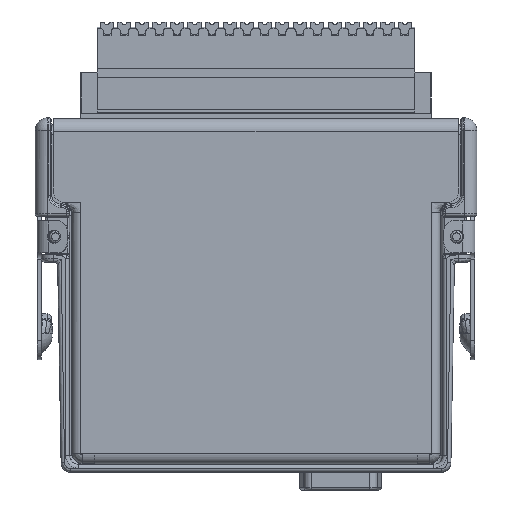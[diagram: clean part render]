
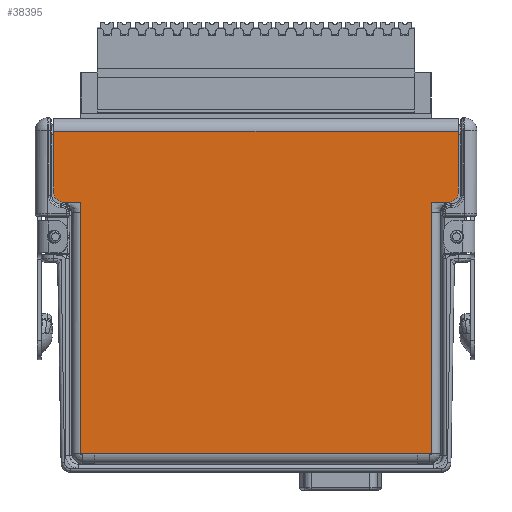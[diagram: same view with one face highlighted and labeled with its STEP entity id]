
A CAD part, left-side view. The second image highlights one B-rep face of the part: STEP entity #38395.
In plain terms, the highlighted planar face has unit normal (-1, 0, 0) as drawn and (0, 0, 1) by its records, which use the part's own axes.
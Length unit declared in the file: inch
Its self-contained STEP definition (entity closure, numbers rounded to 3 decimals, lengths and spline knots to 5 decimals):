
#36951=CARTESIAN_POINT('',(1.5095,-0.779,0.));
#36952=DIRECTION('',(0.,0.,1.));
#36953=DIRECTION('',(1.,0.,0.));
#36954=AXIS2_PLACEMENT_3D('',#36951,#36952,#36953);
#36956=DIRECTION('',(-1.,0.,0.));
#36957=VECTOR('',#36956,0.133);
#36958=CARTESIAN_POINT('',(1.5095,-0.699,0.));
#36959=LINE('',#36958,#36957);
#36968=DIRECTION('',(0.,1.,0.));
#36969=VECTOR('',#36968,0.476);
#36970=CARTESIAN_POINT('',(1.5895,-1.255,0.));
#36971=LINE('',#36970,#36969);
#36972=DIRECTION('',(0.,-1.,0.));
#36973=VECTOR('',#36972,0.476);
#36974=CARTESIAN_POINT('',(-1.5895,-0.779,0.));
#36975=LINE('',#36974,#36973);
#36976=DIRECTION('',(0.,-1.,0.));
#36977=VECTOR('',#36976,0.079);
#36978=CARTESIAN_POINT('',(-1.3765,-0.62,0.));
#36979=LINE('',#36978,#36977);
#36980=DIRECTION('',(-1.,0.,0.));
#36981=VECTOR('',#36980,0.105);
#36982=CARTESIAN_POINT('',(-1.2715,1.275,0.));
#36983=LINE('',#36982,#36981);
#36984=DIRECTION('',(-1.,0.,0.));
#36985=VECTOR('',#36984,0.105);
#36986=CARTESIAN_POINT('',(1.3765,1.275,0.));
#36987=LINE('',#36986,#36985);
#36988=DIRECTION('',(0.,-1.,0.));
#36989=VECTOR('',#36988,0.079);
#36990=CARTESIAN_POINT('',(1.3765,-0.62,0.));
#36991=LINE('',#36990,#36989);
#37005=DIRECTION('',(-1.,0.,0.));
#37006=VECTOR('',#37005,3.179);
#37007=CARTESIAN_POINT('',(1.5895,-1.255,0.));
#37008=LINE('',#37007,#37006);
#37217=CARTESIAN_POINT('',(-1.5095,-0.779,0.));
#37218=DIRECTION('',(0.,0.,1.));
#37219=DIRECTION('',(0.,1.,0.));
#37220=AXIS2_PLACEMENT_3D('',#37217,#37218,#37219);
#37230=DIRECTION('',(-1.,0.,0.));
#37231=VECTOR('',#37230,0.133);
#37232=CARTESIAN_POINT('',(-1.3765,-0.699,0.));
#37233=LINE('',#37232,#37231);
#37242=DIRECTION('',(0.,-1.,0.));
#37243=VECTOR('',#37242,1.895);
#37244=CARTESIAN_POINT('',(-1.3765,1.275,0.));
#37245=LINE('',#37244,#37243);
#37301=DIRECTION('',(-1.,0.,0.));
#37302=VECTOR('',#37301,2.543);
#37303=CARTESIAN_POINT('',(1.2715,1.275,0.));
#37304=LINE('',#37303,#37302);
#37577=DIRECTION('',(0.,-1.,0.));
#37578=VECTOR('',#37577,1.895);
#37579=CARTESIAN_POINT('',(1.3765,1.275,0.));
#37580=LINE('',#37579,#37578);
#37815=CARTESIAN_POINT('',(-1.5895,-1.255,0.));
#37816=VERTEX_POINT('',#37815);
#37817=CARTESIAN_POINT('',(1.5895,-1.255,0.));
#37818=VERTEX_POINT('',#37817);
#37847=CARTESIAN_POINT('',(1.2715,1.275,0.));
#37848=CARTESIAN_POINT('',(-1.2715,1.275,0.));
#37849=VERTEX_POINT('',#37847);
#37850=VERTEX_POINT('',#37848);
#37859=CARTESIAN_POINT('',(-1.3765,1.275,0.));
#37860=VERTEX_POINT('',#37859);
#37871=CARTESIAN_POINT('',(1.3765,1.275,0.));
#37872=VERTEX_POINT('',#37871);
#37928=CARTESIAN_POINT('',(1.5095,-0.699,0.));
#37930=VERTEX_POINT('',#37928);
#37933=CARTESIAN_POINT('',(1.5895,-0.779,0.));
#37934=VERTEX_POINT('',#37933);
#37936=CARTESIAN_POINT('',(-1.5895,-0.779,0.));
#37938=VERTEX_POINT('',#37936);
#37941=CARTESIAN_POINT('',(-1.5095,-0.699,0.));
#37942=VERTEX_POINT('',#37941);
#37963=CARTESIAN_POINT('',(-1.3765,-0.62,0.));
#37964=VERTEX_POINT('',#37963);
#37967=CARTESIAN_POINT('',(-1.3765,-0.699,0.));
#37968=VERTEX_POINT('',#37967);
#37975=CARTESIAN_POINT('',(1.3765,-0.62,0.));
#37976=CARTESIAN_POINT('',(1.3765,-0.699,0.));
#37977=VERTEX_POINT('',#37975);
#37978=VERTEX_POINT('',#37976);
#38362=CARTESIAN_POINT('',(0.,0.,0.));
#38363=DIRECTION('',(0.,0.,1.));
#38364=DIRECTION('',(1.,0.,0.));
#38365=AXIS2_PLACEMENT_3D('',#38362,#38363,#38364);
#38366=PLANE('',#38365);
#38367=ORIENTED_EDGE('',*,*,#38343,.F.);
#38369=ORIENTED_EDGE('',*,*,#38368,.F.);
#38371=ORIENTED_EDGE('',*,*,#38370,.T.);
#38373=ORIENTED_EDGE('',*,*,#38372,.F.);
#38375=ORIENTED_EDGE('',*,*,#38374,.F.);
#38377=ORIENTED_EDGE('',*,*,#38376,.F.);
#38379=ORIENTED_EDGE('',*,*,#38378,.F.);
#38381=ORIENTED_EDGE('',*,*,#38380,.F.);
#38383=ORIENTED_EDGE('',*,*,#38382,.F.);
#38385=ORIENTED_EDGE('',*,*,#38384,.F.);
#38387=ORIENTED_EDGE('',*,*,#38386,.F.);
#38389=ORIENTED_EDGE('',*,*,#38388,.T.);
#38391=ORIENTED_EDGE('',*,*,#38390,.T.);
#38392=ORIENTED_EDGE('',*,*,#38354,.F.);
#38393=EDGE_LOOP('',(#38367,#38369,#38371,#38373,#38375,#38377,#38379,#38381,
#38383,#38385,#38387,#38389,#38391,#38392));
#38394=FACE_OUTER_BOUND('',#38393,.F.);
#38395=ADVANCED_FACE('',(#38394),#38366,.T.);
#36955=CIRCLE('',#36954,0.08);
#37221=CIRCLE('',#37220,0.08);
#38343=EDGE_CURVE('',#37934,#37930,#36955,.T.);
#38354=EDGE_CURVE('',#37930,#37978,#36959,.T.);
#38368=EDGE_CURVE('',#37818,#37934,#36971,.T.);
#38370=EDGE_CURVE('',#37818,#37816,#37008,.T.);
#38372=EDGE_CURVE('',#37938,#37816,#36975,.T.);
#38374=EDGE_CURVE('',#37942,#37938,#37221,.T.);
#38376=EDGE_CURVE('',#37968,#37942,#37233,.T.);
#38378=EDGE_CURVE('',#37964,#37968,#36979,.T.);
#38380=EDGE_CURVE('',#37860,#37964,#37245,.T.);
#38382=EDGE_CURVE('',#37850,#37860,#36983,.T.);
#38384=EDGE_CURVE('',#37849,#37850,#37304,.T.);
#38386=EDGE_CURVE('',#37872,#37849,#36987,.T.);
#38388=EDGE_CURVE('',#37872,#37977,#37580,.T.);
#38390=EDGE_CURVE('',#37977,#37978,#36991,.T.);
